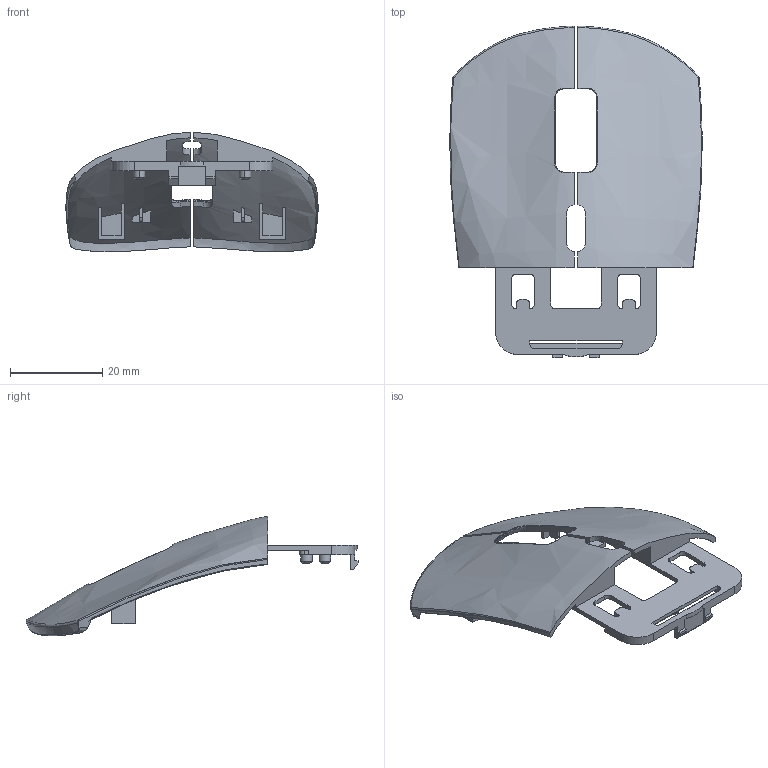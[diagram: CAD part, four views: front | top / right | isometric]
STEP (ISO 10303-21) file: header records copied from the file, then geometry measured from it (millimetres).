
FILE_DESCRIPTION((''),'2;1');
FILE_NAME('_MODEL1_25','2024-06-12T10:21:56',('MS Purchase'),(''),'CREO PARAMETRIC BY PTC INC, 2020033','CREO PARAMETRIC BY PTC INC, 2020033','');
FILE_SCHEMA(('CONFIG_CONTROL_DESIGN'));
Length unit declared in the file: millimetre
Products named in the file (1): _MODEL1_25
Bounding box: 54.73 x 72.06 x 25.94 mm (x, y, z)
Volume: 4449.3 mm3; surface area: 8339.2 mm2
Topology: 1 solids, 1 shells, 250 faces, 682 edges, 445 vertices
Faces by surface type: plane 161, cylinder 41, bspline 32, torus 6, cone 6, extrusion 4
Entity records: 11968 total; most frequent: CARTESIAN_POINT 5998, ORIENTED_EDGE 1364, DIRECTION 1017, EDGE_CURVE 682, VERTEX_POINT 445, VECTOR 411, LINE 407, AXIS2_PLACEMENT_3D 303
